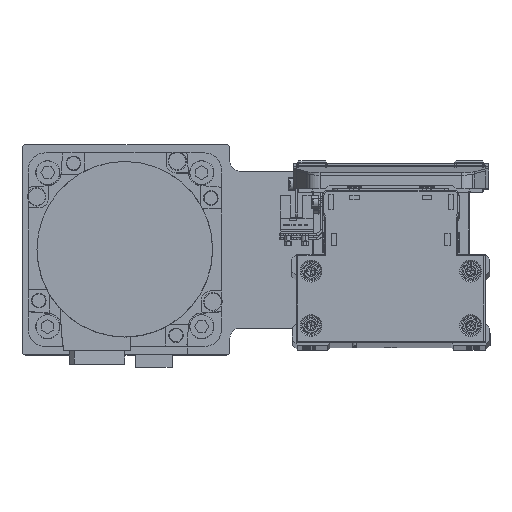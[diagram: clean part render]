
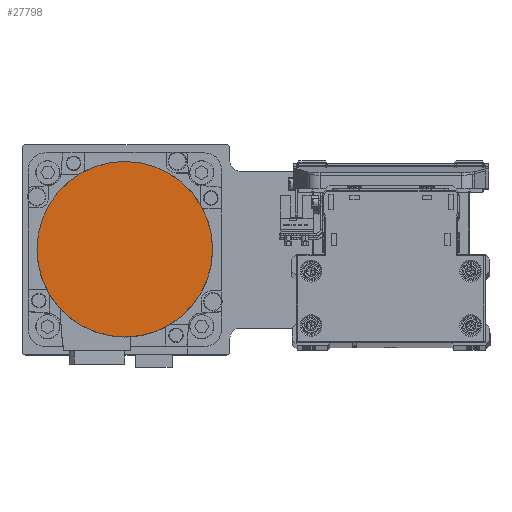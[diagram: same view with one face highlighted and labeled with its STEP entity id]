
A CAD part, top view. The second image highlights one B-rep face of the part: STEP entity #27798.
In plain terms, the highlighted planar face has unit normal (0, 0, 1) as drawn and (0, 0, -1) by its records, which use the part's own axes.
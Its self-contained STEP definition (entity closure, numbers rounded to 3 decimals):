
#112 = CARTESIAN_POINT ( 'NONE',  ( 0., 0., -122.2 ) ) ;
#765 = FACE_OUTER_BOUND ( 'NONE', #29232, .T. ) ;
#1094 = AXIS2_PLACEMENT_3D ( 'NONE', #11165, #23586, #35989 ) ;
#1106 = CIRCLE ( 'NONE', #23880, 36.3 ) ;
#6372 = ORIENTED_EDGE ( 'NONE', *, *, #8577, .F. ) ;
#7200 = VERTEX_POINT ( 'NONE', #21334 ) ;
#7300 = VERTEX_POINT ( 'NONE', #24965 ) ;
#8577 = EDGE_CURVE ( 'NONE', #7200, #7300, #1106, .T. ) ;
#10151 = DIRECTION ( 'NONE',  ( 1., 0., 0. ) ) ;
#10341 = AXIS2_PLACEMENT_3D ( 'NONE', #25619, #38019, #10151 ) ;
#11165 = CARTESIAN_POINT ( 'NONE',  ( 0., 0., -122.2 ) ) ;
#12546 = DIRECTION ( 'NONE',  ( 0., 0., 1. ) ) ;
#13195 = PLANE ( 'NONE',  #10341 ) ;
#18656 = CIRCLE ( 'NONE', #1094, 36.3 ) ;
#21334 = CARTESIAN_POINT ( 'NONE',  ( 0., -36.3, -122.2 ) ) ;
#22573 = ORIENTED_EDGE ( 'NONE', *, *, #34306, .F. ) ;
#23586 = DIRECTION ( 'NONE',  ( 0., 0., 1. ) ) ;
#23880 = AXIS2_PLACEMENT_3D ( 'NONE', #112, #12546, #24972 ) ;
#24965 = CARTESIAN_POINT ( 'NONE',  ( 0., 36.3, -122.2 ) ) ;
#24972 = DIRECTION ( 'NONE',  ( 0., -1., 0. ) ) ;
#25619 = CARTESIAN_POINT ( 'NONE',  ( 0., 0., -122.2 ) ) ;
#27798 = ADVANCED_FACE ( 'NONE', ( #765 ), #13195, .F. ) ;
#29232 = EDGE_LOOP ( 'NONE', ( #22573, #6372 ) ) ;
#34306 = EDGE_CURVE ( 'NONE', #7300, #7200, #18656, .T. ) ;
#35989 = DIRECTION ( 'NONE',  ( 0., 1., 0. ) ) ;
#38019 = DIRECTION ( 'NONE',  ( 0., 0., 1. ) ) ;
